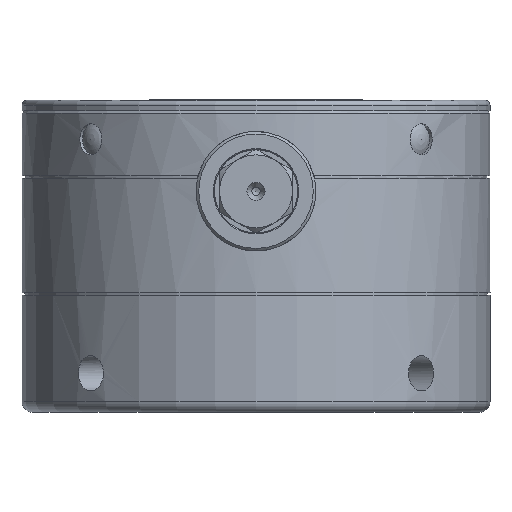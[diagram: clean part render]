
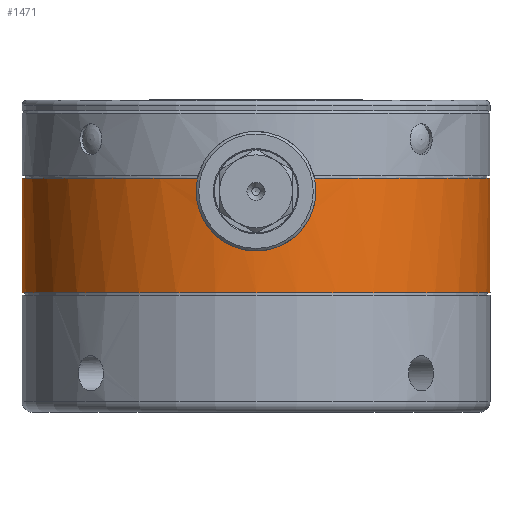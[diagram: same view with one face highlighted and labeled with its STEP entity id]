
A CAD part, left-side view. The second image highlights one B-rep face of the part: STEP entity #1471.
In plain terms, the highlighted cylindrical face has radius 45 mm (diameter 90 mm), a full revolution.
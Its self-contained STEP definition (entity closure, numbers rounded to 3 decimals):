
#1471 = ADVANCED_FACE( '', ( #3252, #3253 ), #3254, .T. );
#3252 = FACE_OUTER_BOUND( '', #5298, .T. );
#3253 = FACE_OUTER_BOUND( '', #5299, .T. );
#3254 = CYLINDRICAL_SURFACE( '', #5300, 45. );
#5298 = EDGE_LOOP( '', ( #10058 ) );
#5299 = EDGE_LOOP( '', ( #10059, #10060, #10061, #10062 ) );
#5300 = AXIS2_PLACEMENT_3D( '', #10063, #10064, #10065 );
#10058 = ORIENTED_EDGE( '', *, *, #12311, .T. );
#10059 = ORIENTED_EDGE( '', *, *, #13468, .F. );
#10060 = ORIENTED_EDGE( '', *, *, #13469, .F. );
#10061 = ORIENTED_EDGE( '', *, *, #13172, .F. );
#10062 = ORIENTED_EDGE( '', *, *, #13470, .F. );
#10063 = CARTESIAN_POINT( '', ( 0., 0., 54. ) );
#10064 = DIRECTION( '', ( 0., 0., -1. ) );
#10065 = DIRECTION( '', ( 1., 0., 0. ) );
#12311 = EDGE_CURVE( '', #14697, #14697, #14698, .T. );
#13172 = EDGE_CURVE( '', #14877, #15985, #15986, .T. );
#13468 = EDGE_CURVE( '', #16362, #14881, #16363, .T. );
#13469 = EDGE_CURVE( '', #15985, #16362, #16364, .T. );
#13470 = EDGE_CURVE( '', #14881, #14877, #16365, .T. );
#14697 = VERTEX_POINT( '', #18979 );
#14698 = CIRCLE( '', #18980, 45. );
#14877 = VERTEX_POINT( '', #19353 );
#14881 = VERTEX_POINT( '', #19357 );
#15985 = VERTEX_POINT( '', #22211 );
#15986 = B_SPLINE_CURVE_WITH_KNOTS( '', 3, ( #22212, #22213, #22214, #22215, #22216, #22217, #22218, #22219, #22220, #22221, #22222, #22223, #22224, #22225, #22226, #22227, #22228, #22229, #22230, #22231, #22232, #22233, #22234, #22235, #22236, #22237 ), .UNSPECIFIED., .F., .F., ( 4, 2, 2, 2, 2, 2, 2, 2, 2, 2, 2, 2, 4 ), ( 0., 0.002, 0.003, 0.004, 0.006, 0.007, 0.008, 0.01, 0.011, 0.012, 0.014, 0.015, 0.016 ), .UNSPECIFIED. );
#16362 = VERTEX_POINT( '', #23084 );
#16363 = B_SPLINE_CURVE_WITH_KNOTS( '', 3, ( #23085, #23086, #23087, #23088, #23089, #23090, #23091, #23092, #23093, #23094, #23095, #23096, #23097, #23098, #23099, #23100, #23101, #23102, #23103, #23104, #23105, #23106 ), .UNSPECIFIED., .F., .F., ( 4, 2, 2, 2, 2, 2, 2, 2, 2, 2, 4 ), ( 0., 0.002, 0.003, 0.004, 0.006, 0.007, 0.008, 0.01, 0.012, 0.014, 0.016 ), .UNSPECIFIED. );
#16364 = CIRCLE( '', #23107, 45. );
#16365 = B_SPLINE_CURVE_WITH_KNOTS( '', 3, ( #23108, #23109, #23110, #23111, #23112, #23113, #23114, #23115, #23116, #23117, #23118, #23119 ), .UNSPECIFIED., .F., .F., ( 4, 2, 2, 2, 2, 4 ), ( 0., 0.002, 0.003, 0.004, 0.006, 0.009 ), .UNSPECIFIED. );
#18979 = CARTESIAN_POINT( '', ( 45., 0., 23. ) );
#18980 = AXIS2_PLACEMENT_3D( '', #24095, #24096, #24097 );
#19353 = CARTESIAN_POINT( '', ( -44.8, -4.238, 31.809 ) );
#19357 = CARTESIAN_POINT( '', ( -44.8, 4.238, 31.809 ) );
#22211 = CARTESIAN_POINT( '', ( -43.578, -11.225, 45. ) );
#22212 = CARTESIAN_POINT( '', ( -44.8, -4.238, 31.809 ) );
#22213 = CARTESIAN_POINT( '', ( -44.74, -4.873, 32.061 ) );
#22214 = CARTESIAN_POINT( '', ( -44.669, -5.476, 32.365 ) );
#22215 = CARTESIAN_POINT( '', ( -44.553, -6.333, 32.895 ) );
#22216 = CARTESIAN_POINT( '', ( -44.513, -6.611, 33.084 ) );
#22217 = CARTESIAN_POINT( '', ( -44.429, -7.151, 33.488 ) );
#22218 = CARTESIAN_POINT( '', ( -44.386, -7.414, 33.703 ) );
#22219 = CARTESIAN_POINT( '', ( -44.254, -8.173, 34.382 ) );
#22220 = CARTESIAN_POINT( '', ( -44.166, -8.633, 34.872 ) );
#22221 = CARTESIAN_POINT( '', ( -44.039, -9.254, 35.665 ) );
#22222 = CARTESIAN_POINT( '', ( -43.997, -9.45, 35.938 ) );
#22223 = CARTESIAN_POINT( '', ( -43.916, -9.819, 36.504 ) );
#22224 = CARTESIAN_POINT( '', ( -43.877, -9.993, 36.798 ) );
#22225 = CARTESIAN_POINT( '', ( -43.766, -10.471, 37.697 ) );
#22226 = CARTESIAN_POINT( '', ( -43.702, -10.734, 38.318 ) );
#22227 = CARTESIAN_POINT( '', ( -43.624, -11.045, 39.28 ) );
#22228 = CARTESIAN_POINT( '', ( -43.601, -11.135, 39.606 ) );
#22229 = CARTESIAN_POINT( '', ( -43.562, -11.287, 40.269 ) );
#22230 = CARTESIAN_POINT( '', ( -43.546, -11.348, 40.608 ) );
#22231 = CARTESIAN_POINT( '', ( -43.509, -11.487, 41.621 ) );
#22232 = CARTESIAN_POINT( '', ( -43.501, -11.518, 42.297 ) );
#22233 = CARTESIAN_POINT( '', ( -43.512, -11.476, 43.312 ) );
#22234 = CARTESIAN_POINT( '', ( -43.52, -11.447, 43.65 ) );
#22235 = CARTESIAN_POINT( '', ( -43.543, -11.359, 44.327 ) );
#22236 = CARTESIAN_POINT( '', ( -43.558, -11.299, 44.666 ) );
#22237 = CARTESIAN_POINT( '', ( -43.578, -11.225, 45. ) );
#23084 = CARTESIAN_POINT( '', ( -43.578, 11.225, 45. ) );
#23085 = CARTESIAN_POINT( '', ( -43.578, 11.225, 45. ) );
#23086 = CARTESIAN_POINT( '', ( -43.539, 11.374, 44.332 ) );
#23087 = CARTESIAN_POINT( '', ( -43.516, 11.461, 43.659 ) );
#23088 = CARTESIAN_POINT( '', ( -43.505, 11.504, 42.646 ) );
#23089 = CARTESIAN_POINT( '', ( -43.505, 11.503, 42.307 ) );
#23090 = CARTESIAN_POINT( '', ( -43.513, 11.472, 41.628 ) );
#23091 = CARTESIAN_POINT( '', ( -43.521, 11.441, 41.286 ) );
#23092 = CARTESIAN_POINT( '', ( -43.558, 11.303, 40.271 ) );
#23093 = CARTESIAN_POINT( '', ( -43.597, 11.152, 39.612 ) );
#23094 = CARTESIAN_POINT( '', ( -43.675, 10.841, 38.649 ) );
#23095 = CARTESIAN_POINT( '', ( -43.704, 10.723, 38.332 ) );
#23096 = CARTESIAN_POINT( '', ( -43.768, 10.459, 37.706 ) );
#23097 = CARTESIAN_POINT( '', ( -43.803, 10.312, 37.398 ) );
#23098 = CARTESIAN_POINT( '', ( -43.913, 9.835, 36.501 ) );
#23099 = CARTESIAN_POINT( '', ( -43.995, 9.468, 35.938 ) );
#23100 = CARTESIAN_POINT( '', ( -44.165, 8.639, 34.879 ) );
#23101 = CARTESIAN_POINT( '', ( -44.255, 8.171, 34.38 ) );
#23102 = CARTESIAN_POINT( '', ( -44.428, 7.168, 33.482 ) );
#23103 = CARTESIAN_POINT( '', ( -44.513, 6.631, 33.08 ) );
#23104 = CARTESIAN_POINT( '', ( -44.668, 5.485, 32.37 ) );
#23105 = CARTESIAN_POINT( '', ( -44.74, 4.873, 32.061 ) );
#23106 = CARTESIAN_POINT( '', ( -44.8, 4.238, 31.809 ) );
#23107 = AXIS2_PLACEMENT_3D( '', #25030, #25031, #25032 );
#23108 = CARTESIAN_POINT( '', ( -44.8, 4.238, 31.809 ) );
#23109 = CARTESIAN_POINT( '', ( -44.864, 3.562, 31.541 ) );
#23110 = CARTESIAN_POINT( '', ( -44.914, 2.87, 31.341 ) );
#23111 = CARTESIAN_POINT( '', ( -44.965, 1.81, 31.138 ) );
#23112 = CARTESIAN_POINT( '', ( -44.978, 1.453, 31.086 ) );
#23113 = CARTESIAN_POINT( '', ( -44.996, 0.73, 31.017 ) );
#23114 = CARTESIAN_POINT( '', ( -45., 0.364, 31. ) );
#23115 = CARTESIAN_POINT( '', ( -45., -0.724, 31. ) );
#23116 = CARTESIAN_POINT( '', ( -44.983, -1.441, 31.068 ) );
#23117 = CARTESIAN_POINT( '', ( -44.915, -2.858, 31.337 ) );
#23118 = CARTESIAN_POINT( '', ( -44.864, -3.561, 31.541 ) );
#23119 = CARTESIAN_POINT( '', ( -44.8, -4.238, 31.809 ) );
#24095 = CARTESIAN_POINT( '', ( 0., 0., 23. ) );
#24096 = DIRECTION( '', ( 0., 0., 1. ) );
#24097 = DIRECTION( '', ( 1., 0., 0. ) );
#25030 = CARTESIAN_POINT( '', ( 0., 0., 45. ) );
#25031 = DIRECTION( '', ( 0., 0., 1. ) );
#25032 = DIRECTION( '', ( 1., 0., 0. ) );
